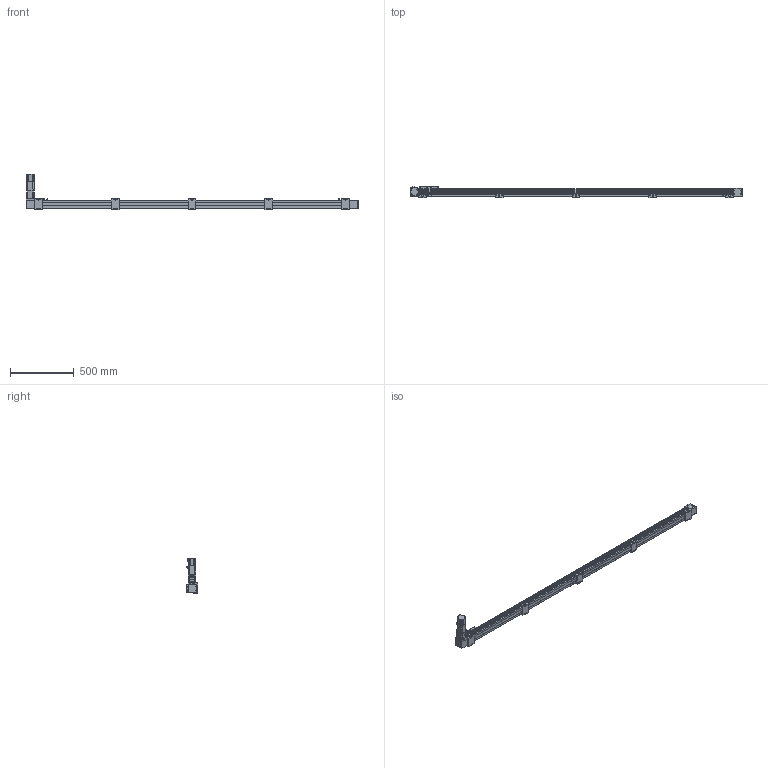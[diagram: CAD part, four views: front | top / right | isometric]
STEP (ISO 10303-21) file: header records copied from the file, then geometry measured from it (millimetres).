
FILE_DESCRIPTION(/* description */ ('STEP AP203'),/* implementation_level */ '2;1');
FILE_NAME(/* name */ 'SK60-P13-S2300-BL-T40-C1-N(0)',/* time_stamp */ '2023-04-06T03:37:51+02:00',/* author */ ('License CC BY-ND 4.0'),/* organization */ ('CADENAS'),/* preprocessor_version */ 'ST-DEVELOPER v19.3',/* originating_system */ 'PARTsolutions',/* authorisation */ ' ');
FILE_SCHEMA (('CONFIG_CONTROL_DESIGN'));
Length unit declared in the file: millimetre
Products named in the file (11): SK60-P13-S2300-BL-T40-C1-N(0); PSC140-sensor; SK60-S450_seat; SK60-S450-BL-C1_slider; SK60_body3; SK60_body6; SK60-BL_body2; T40-p1; SK60_body5; SK60_body4; SK60-S2300-BL-C1_body
Assembly tree (20 placements, depth 2):
  SK60-P13-S2300-BL-T40-C1-N(0)
    PSC140-sensor  x3
    SK60-S450_seat  x5
    SK60-S450-BL-C1_slider
    SK60_body3  x3
    SK60_body6  x2
    SK60-BL_body2  x2
    T40-p1
    SK60_body5
    SK60_body4
    SK60-S2300-BL-C1_body
Bounding box: 2600 x 90 x 278.2 mm (x, y, z)
Volume: 9432542.4 mm3; surface area: 1160275.8 mm2
Topology: 20 solids, 24 shells, 966 faces, 2403 edges, 1586 vertices
Faces by surface type: plane 616, cylinder 314, cone 34, torus 2
Full cylindrical faces by diameter (mm): 2.8 x3, 3.3 x4, 4.2 x8, 4.5 x26, 4.6 x3, 4.917 x28, 5 x2, 5.478 x4, 5.5 x31, 6.5 x10, 8 x4, 8.5 x4, 9.988 x4, 10 x20, 13.556 x1, 14 x1, 14.586 x1, 19.692 x1, 38.432 x2, 43 x1, 44 x3, 47 x2, 50 x2
Entity records: 19395 total; most frequent: DIRECTION 3298, CARTESIAN_POINT 3292, ORIENTED_EDGE 3050, EDGE_CURVE 1525, AXIS2_PLACEMENT_3D 1103, LINE 1092, VECTOR 1092, VERTEX_POINT 1077
